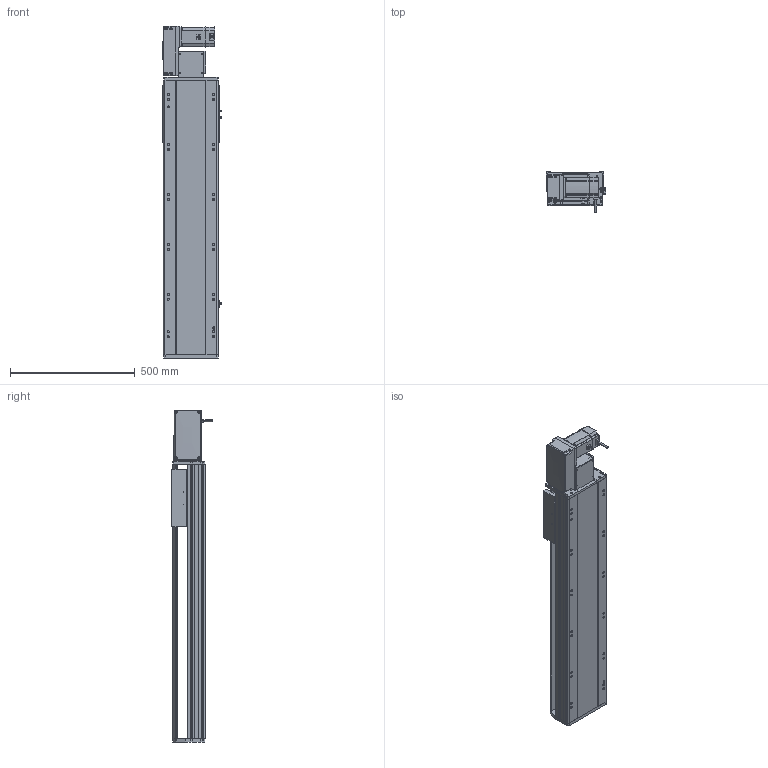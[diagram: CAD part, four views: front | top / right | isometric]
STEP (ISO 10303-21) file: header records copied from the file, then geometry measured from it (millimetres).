
FILE_DESCRIPTION (( 'STEP AP214' ), '1' );
FILE_NAME ('RTB22S-XX-750-L-M75-C4.STEP', '2025-12-12T03:15:25', ( '' ), ( '' ), 'SwSTEP 2.0', 'SolidWorks 2018', '' );
FILE_SCHEMA (( 'AUTOMOTIVE_DESIGN' ));
Length unit declared in the file: millimetre
Products named in the file (14): RTB22S-GY-005P^RTB22S-L-々湍釱蚾饜_RTB22S-XX-XX-L-M75-C4; RTB22S-GY-014--々湍釱^RTB22S-L-々湍釱蚾饜_RTB22S-XX-XX-L-M75-C4; RTB22S-L-011菁釱^RTB22S-XX-XX-L-M75-C4; RTB22S-GY-007奻裔^RTB22S-XX-XX-L-M75-C4; RTB22S-XX-750-L-M75-C4; RTH22-GY-013外置感应片^RTB22S-XX-XX-L-M75-C4; RTB22S-GY-001耜裔^RTB22S-XX-XX-L-M75-C4; RTB22S-GY-018P^RTB22S-L-々湍釱蚾饜_RTB22S-XX-XX-L-M75-C4; RTB22S-GY-017P^RTB22S-L-々湍釱蚾饜_RTB22S-XX-XX-L-M75-C4; 750W萇儂^RTB22S-XX-XX-L-M75-C4; RTB22S-L-々湍釱蚾饜^RTB22S-XX-XX-L-M75-C4; RTB22S-L-004賑釱^RTB22S-XX-XX-L-M75-C4; RTB22S-GY-008-M75--萇儂啣^RTB22S-L-々湍釱蚾饜_RTB22S-XX-XX-L-M75-C4; OMRON EE-SX672 传感器^RTB22S-XX-XX-L-M75-C4
Assembly tree (16 placements, depth 3):
  RTB22S-XX-750-L-M75-C4
    RTB22S-L-011菁釱^RTB22S-XX-XX-L-M75-C4
    750W萇儂^RTB22S-XX-XX-L-M75-C4
    RTB22S-L-004賑釱^RTB22S-XX-XX-L-M75-C4
    OMRON EE-SX672 传感器^RTB22S-XX-XX-L-M75-C4  x3
    RTH22-GY-013外置感应片^RTB22S-XX-XX-L-M75-C4
    RTB22S-GY-007奻裔^RTB22S-XX-XX-L-M75-C4
    RTB22S-GY-001耜裔^RTB22S-XX-XX-L-M75-C4
    RTB22S-L-々湍釱蚾饜^RTB22S-XX-XX-L-M75-C4
      RTB22S-GY-014--々湍釱^RTB22S-L-々湍釱蚾饜_RTB22S-XX-XX-L-M75-C4
      RTB22S-GY-017P^RTB22S-L-々湍釱蚾饜_RTB22S-XX-XX-L-M75-C4  x2
      RTB22S-GY-005P^RTB22S-L-々湍釱蚾饜_RTB22S-XX-XX-L-M75-C4
      RTB22S-GY-008-M75--萇儂啣^RTB22S-L-々湍釱蚾饜_RTB22S-XX-XX-L-M75-C4
      RTB22S-GY-018P^RTB22S-L-々湍釱蚾饜_RTB22S-XX-XX-L-M75-C4
Bounding box: 238.5 x 162.7 x 1329 mm (x, y, z)
Volume: 18378065.8 mm3; surface area: 1924645.1 mm2
Topology: 15 solids, 15 shells, 1947 faces, 5286 edges, 3392 vertices
Faces by surface type: plane 911, cylinder 598, bspline 296, cone 130, sphere 8, torus 4
Entity records: 51452 total; most frequent: CARTESIAN_POINT 14876, ORIENTED_EDGE 7376, DIRECTION 7062, EDGE_CURVE 3688, AXIS2_PLACEMENT_3D 2478, VERTEX_POINT 2396, LINE 2106, VECTOR 2106
